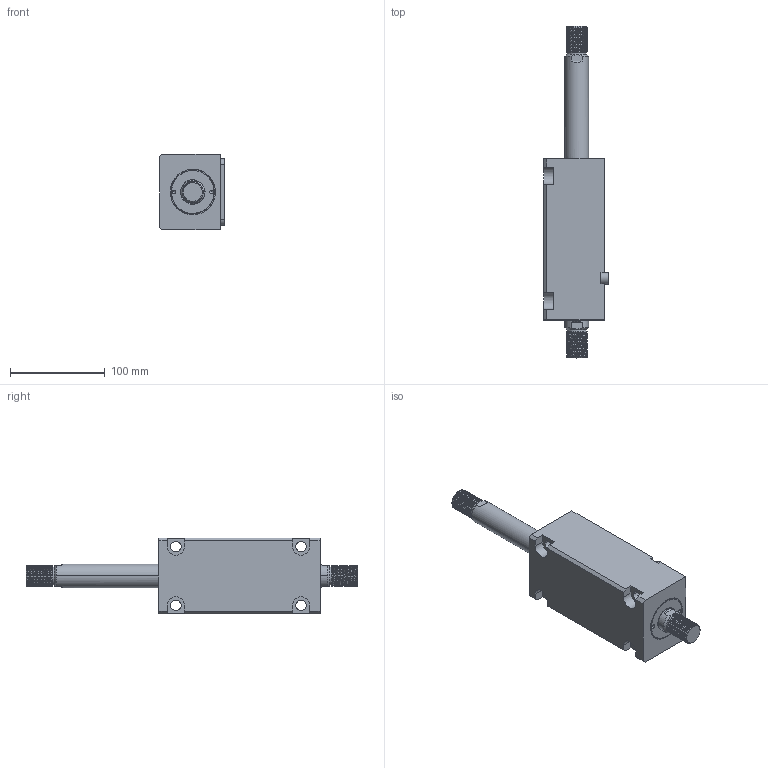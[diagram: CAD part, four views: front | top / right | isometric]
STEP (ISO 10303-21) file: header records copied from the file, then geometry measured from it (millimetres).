
FILE_DESCRIPTION (( 'STEP AP214' ), '1' );
FILE_NAME ('chtb-lwm40x100w_asm.STEP', '2018-05-31T00:55:25', ( 'Windows' ), ( 'Microsoft' ), 'SwSTEP 2.0', 'SolidWorks 2015', '' );
FILE_SCHEMA (( 'AUTOMOTIVE_DESIGN' ));
Length unit declared in the file: millimetre
Products named in the file (5): CHTB-SD40QG; CHTB-LWM40X100NBT; CHTB-LA40PJ; chtb-lwm40x100w_asm; CHTB-SW40X100NHSG
Assembly tree (4 placements, depth 2):
  chtb-lwm40x100w_asm
    CHTB-LA40PJ
    CHTB-LWM40X100NBT
    CHTB-SD40QG
    CHTB-SW40X100NHSG
Bounding box: 68.5 x 350 x 80 mm (x, y, z)
Volume: 839537 mm3; surface area: 133217.9 mm2
Topology: 4 solids, 4 shells, 252 faces, 699 edges, 465 vertices
Faces by surface type: cylinder 152, plane 57, bspline 18, cone 13, torus 12
Entity records: 17373 total; most frequent: CARTESIAN_POINT 11260, ORIENTED_EDGE 1386, DIRECTION 1092, EDGE_CURVE 693, VERTEX_POINT 465, AXIS2_PLACEMENT_3D 419, EDGE_LOOP 284, VECTOR 254
